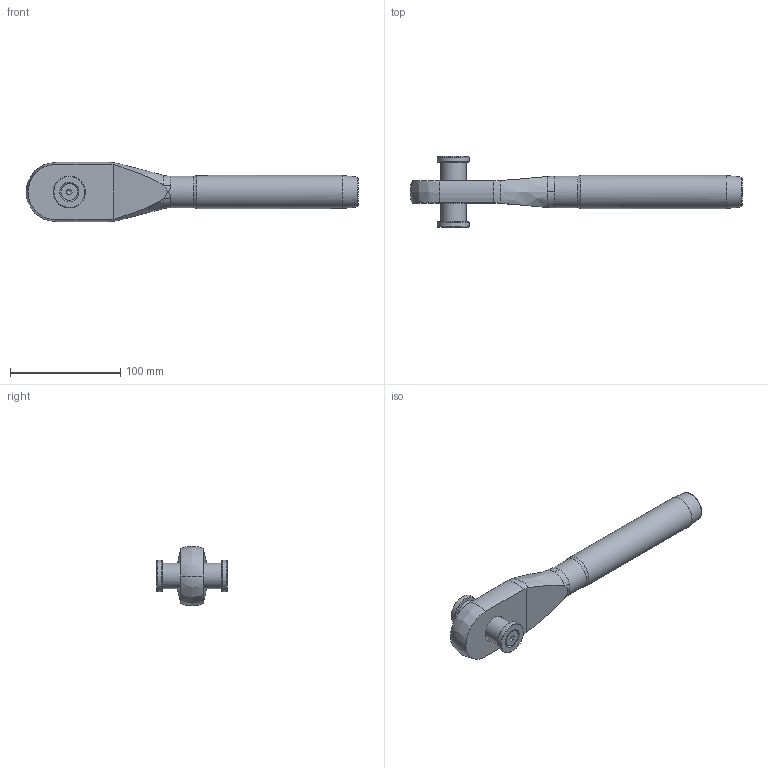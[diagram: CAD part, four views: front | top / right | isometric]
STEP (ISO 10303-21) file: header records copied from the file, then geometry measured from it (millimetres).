
FILE_DESCRIPTION(/* description */ (''),/* implementation_level */ '2;1');
FILE_NAME(/* name */ 'MCC 16_1,4418',/* time_stamp */ '2023-05-23T15:40:32+02:00',/* author */ (''),/* organization */ (''),/* preprocessor_version */ 'ST-DEVELOPER v16.5',/* originating_system */ 'Rhino 7.22',/* authorisation */ '');
FILE_SCHEMA (('CONFIG_CONTROL_DESIGN'));
Length unit declared in the file: millimetre
Products named in the file (1): Document
Bounding box: 301 x 64.34 x 53.94 mm (x, y, z)
Volume: 260160.2 mm3; surface area: 44510.7 mm2
Topology: 6 solids, 6 shells, 74 faces, 203 edges, 135 vertices
Faces by surface type: bspline 31, plane 27, cylinder 16
Full cylindrical faces by diameter (mm): 6.647 x2, 8 x2, 8.5 x2, 15.24 x2, 23 x1, 25 x1, 28.6 x1, 29 x2, 30 x1
Entity records: 3215 total; most frequent: CARTESIAN_POINT 1960, ORIENTED_EDGE 386, EDGE_CURVE 193, VERTEX_POINT 135, EDGE_LOOP 84, ADVANCED_FACE 74, FACE_OUTER_BOUND 74, B_SPLINE_CURVE_WITH_KNOTS 64
